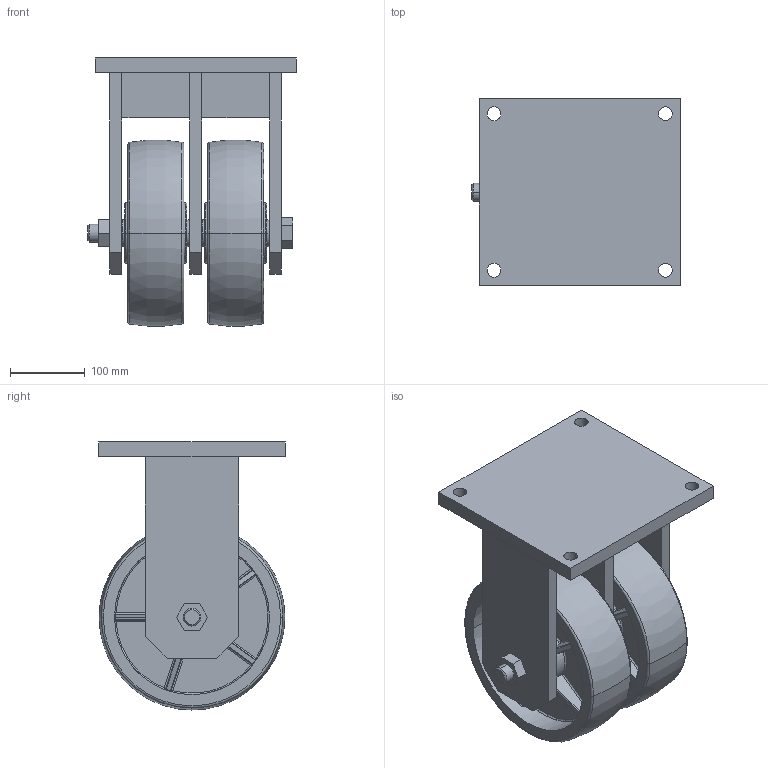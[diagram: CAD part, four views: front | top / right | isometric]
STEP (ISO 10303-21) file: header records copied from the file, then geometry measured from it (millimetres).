
FILE_DESCRIPTION (( 'STEP AP214' ), '1' );
FILE_NAME ('951010-9510-86T ¶¨Ïò.STEP', '2019-12-27T00:17:17', ( 'Owner' ), ( 'Organization' ), 'SwSTEP 2.0', 'SolidWorks 2014', '' );
FILE_SCHEMA (( 'AUTOMOTIVE_DESIGN' ));
Length unit declared in the file: millimetre
Products named in the file (7): 950c10-1; 950c00; 9510-86T; 951010-9510-86T 隅砃; 950c10-2; 950-34; 950-33 隅砃
Assembly tree (10 placements, depth 2):
  951010-9510-86T 隅砃
    950c00
    950c10-1  x3
    950c10-2  x2
    950-33 隅砃
    950-34
    9510-86T  x2
Bounding box: 280 x 250 x 359.66 mm (x, y, z)
Volume: 7114464.7 mm3; surface area: 917290.7 mm2
Topology: 10 solids, 10 shells, 533 faces, 1236 edges, 696 vertices
Faces by surface type: cylinder 150, plane 135, bspline 120, torus 80, cone 48
Entity records: 11047 total; most frequent: CARTESIAN_POINT 4876, ORIENTED_EDGE 1260, DIRECTION 1183, EDGE_CURVE 630, AXIS2_PLACEMENT_3D 480, VERTEX_POINT 369, EDGE_LOOP 301, FACE_OUTER_BOUND 280
